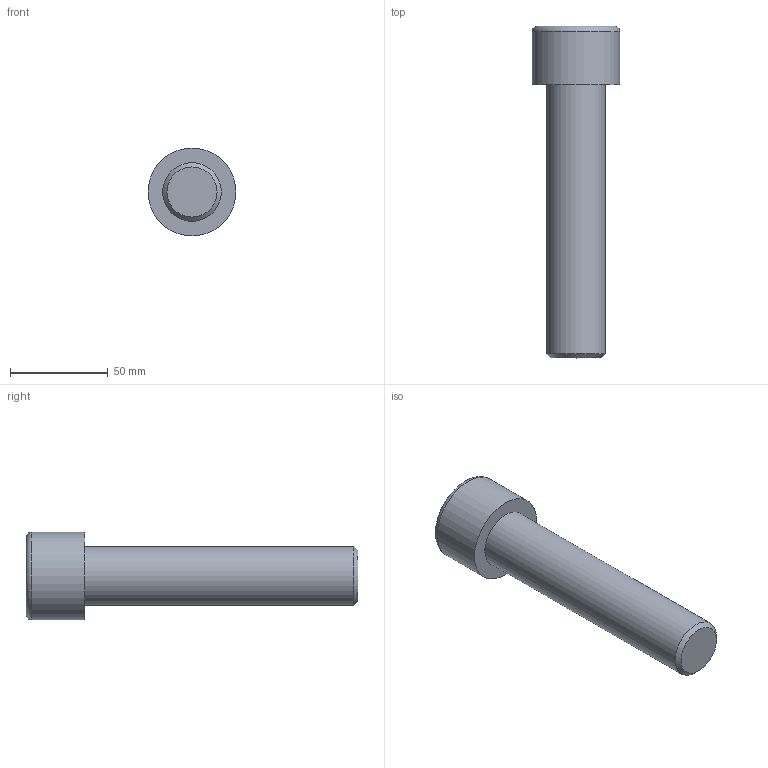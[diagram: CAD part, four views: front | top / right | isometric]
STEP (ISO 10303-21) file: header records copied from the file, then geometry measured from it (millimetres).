
FILE_DESCRIPTION(/* description */ (''),/* implementation_level */ '2;1');
FILE_NAME(/* name */ 'C:\Users\D\Documents\Inventor\各種小物\JIS\JIS B 1176 六角穴付きボルト\M30x140.stp',/* time_stamp */ '2022-05-09T19:01:48+09:00',/* author */ ('D'),/* organization */ (''),/* preprocessor_version */ 'ST-DEVELOPER v18',/* originating_system */ 'Autodesk Inventor 2020',/* authorisation */ '');
FILE_SCHEMA (('AUTOMOTIVE_DESIGN { 1 0 10303 214 3 1 1 }'));
Length unit declared in the file: millimetre
Products named in the file (1): M1.6x2.5
Bounding box: 45 x 170 x 45 mm (x, y, z)
Volume: 138498.9 mm3; surface area: 21601.2 mm2
Topology: 1 solids, 1 shells, 14 faces, 33 edges, 22 vertices
Faces by surface type: plane 9, cone 2, cylinder 2, torus 1
Full cylindrical faces by diameter (mm): 30 x1, 45 x1
Entity records: 435 total; most frequent: CARTESIAN_POINT 83, ORIENTED_EDGE 64, DIRECTION 64, EDGE_CURVE 32, AXIS2_PLACEMENT_3D 24, VERTEX_POINT 22, EDGE_LOOP 16, LINE 16
